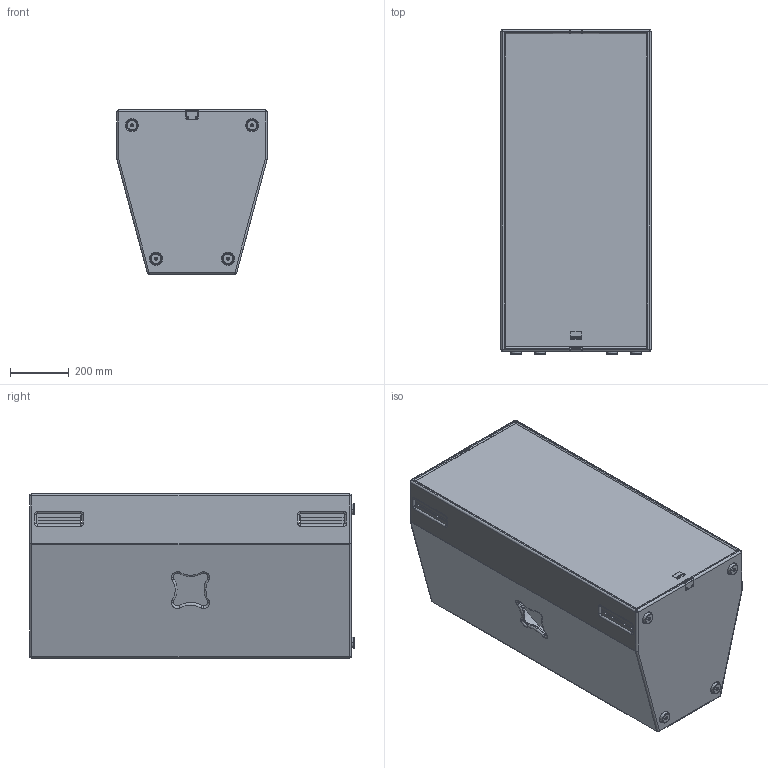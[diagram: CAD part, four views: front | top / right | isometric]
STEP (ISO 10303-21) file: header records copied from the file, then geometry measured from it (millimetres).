
FILE_DESCRIPTION (( 'STEP AP203' ), '1' );
FILE_NAME ('Seeburg_K22.STEP', '2012-10-16T12:03:53', ( 'Fabian' ), ( '' ), 'SwSTEP 2.0', 'SolidWorks 2009', '' );
FILE_SCHEMA (( 'CONFIG_CONTROL_DESIGN' ));
Length unit declared in the file: millimetre
Products named in the file (2): Seeburg_K22; K22
Assembly tree (1 placements, depth 2):
  Seeburg_K22
    K22
Bounding box: 512 x 1108 x 560 mm (x, y, z)
Volume: 37902949.1 mm3; surface area: 5443525.7 mm2
Topology: 24 solids, 24 shells, 752 faces, 1900 edges, 1202 vertices
Faces by surface type: plane 295, cylinder 284, torus 116, cone 40, sphere 17
Entity records: 26607 total; most frequent: CARTESIAN_POINT 8102, DIRECTION 3949, ORIENTED_EDGE 3784, EDGE_CURVE 1892, AXIS2_PLACEMENT_3D 1465, VERTEX_POINT 1198, VECTOR 1019, LINE 1019
